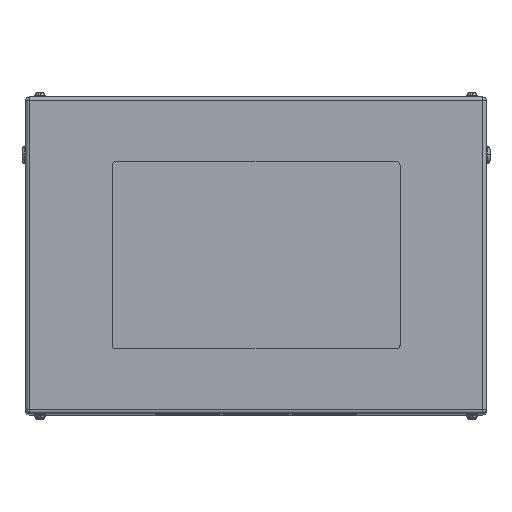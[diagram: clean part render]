
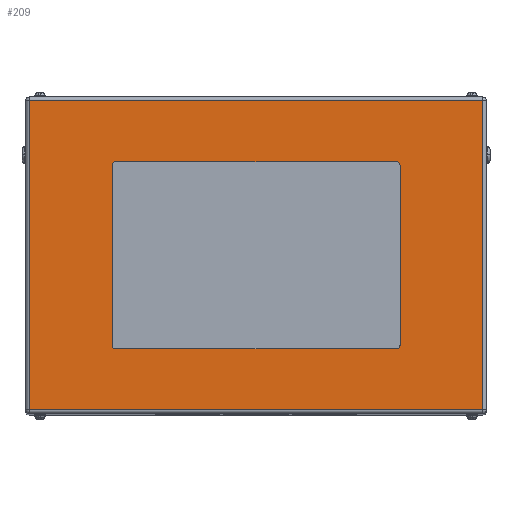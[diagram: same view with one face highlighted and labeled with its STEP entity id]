
A CAD part, top view. The second image highlights one B-rep face of the part: STEP entity #209.
In plain terms, the highlighted planar face has unit normal (0, 0, 1).
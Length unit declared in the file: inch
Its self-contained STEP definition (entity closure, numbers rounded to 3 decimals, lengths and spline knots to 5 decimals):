
#209 = ADVANCED_FACE ( 'NONE', ( #15236, #17262 ), #8025, .F. ) ;
#757 = VERTEX_POINT ( 'NONE', #3330 ) ;
#929 = VERTEX_POINT ( 'NONE', #8004 ) ;
#933 = EDGE_LOOP ( 'NONE', ( #4051, #17474, #10900, #5297 ) ) ;
#1141 = CARTESIAN_POINT ( 'NONE',  ( -9.75, 6.5, 25.5 ) ) ;
#1165 = CARTESIAN_POINT ( 'NONE',  ( -10., 6.25, 25.5 ) ) ;
#1650 = CARTESIAN_POINT ( 'NONE',  ( -9.75, 6.25, 25.5 ) ) ;
#1843 = DIRECTION ( 'NONE',  ( 0., 0., 1. ) ) ;
#1990 = CARTESIAN_POINT ( 'NONE',  ( 10., -6.25, 25.5 ) ) ;
#2100 = VECTOR ( 'NONE', #7121, 39.37008 ) ;
#2222 = CIRCLE ( 'NONE', #9651, 0.25 ) ;
#2949 = CARTESIAN_POINT ( 'NONE',  ( 9.75, 6.25, 25.5 ) ) ;
#2966 = VERTEX_POINT ( 'NONE', #17646 ) ;
#3023 = CARTESIAN_POINT ( 'NONE',  ( 15.734, 10.734, 25.5 ) ) ;
#3059 = EDGE_CURVE ( 'NONE', #4018, #2966, #16823, .T. ) ;
#3330 = CARTESIAN_POINT ( 'NONE',  ( -9.75, -6.5, 25.5 ) ) ;
#3699 = ORIENTED_EDGE ( 'NONE', *, *, #13956, .F. ) ;
#3740 = EDGE_LOOP ( 'NONE', ( #3859, #12587, #3768, #13726, #5467, #11175, #17656, #3699 ) ) ;
#3765 = CARTESIAN_POINT ( 'NONE',  ( 9.75, -6.25, 25.5 ) ) ;
#3768 = ORIENTED_EDGE ( 'NONE', *, *, #16489, .F. ) ;
#3859 = ORIENTED_EDGE ( 'NONE', *, *, #8960, .F. ) ;
#4018 = VERTEX_POINT ( 'NONE', #10508 ) ;
#4051 = ORIENTED_EDGE ( 'NONE', *, *, #3059, .T. ) ;
#4306 = VERTEX_POINT ( 'NONE', #1141 ) ;
#4371 = AXIS2_PLACEMENT_3D ( 'NONE', #14760, #8935, #6289 ) ;
#4380 = DIRECTION ( 'NONE',  ( 0., 0., 1. ) ) ;
#4489 = DIRECTION ( 'NONE',  ( 1., 0., 0. ) ) ;
#4552 = DIRECTION ( 'NONE',  ( -1., 0., 0. ) ) ;
#4629 = CIRCLE ( 'NONE', #13548, 0.25 ) ;
#4644 = DIRECTION ( 'NONE',  ( 1., 0., 0. ) ) ;
#4769 = LINE ( 'NONE', #8024, #15805 ) ;
#5134 = VERTEX_POINT ( 'NONE', #1990 ) ;
#5194 = CARTESIAN_POINT ( 'NONE',  ( 10., 6.25, 25.5 ) ) ;
#5297 = ORIENTED_EDGE ( 'NONE', *, *, #13343, .T. ) ;
#5467 = ORIENTED_EDGE ( 'NONE', *, *, #12211, .F. ) ;
#5522 = DIRECTION ( 'NONE',  ( 1., 0., 0. ) ) ;
#5549 = EDGE_CURVE ( 'NONE', #16502, #15808, #15280, .T. ) ;
#5777 = AXIS2_PLACEMENT_3D ( 'NONE', #10890, #13554, #18132 ) ;
#5815 = CIRCLE ( 'NONE', #12678, 0.25 ) ;
#5835 = DIRECTION ( 'NONE',  ( 0., 1., 0. ) ) ;
#6220 = VECTOR ( 'NONE', #4552, 39.37008 ) ;
#6289 = DIRECTION ( 'NONE',  ( 1., 0., 0. ) ) ;
#6561 = LINE ( 'NONE', #7248, #2100 ) ;
#6671 = DIRECTION ( 'NONE',  ( 1., 0., 0. ) ) ;
#6707 = CARTESIAN_POINT ( 'NONE',  ( -9.75, -6.5, 25.5 ) ) ;
#7121 = DIRECTION ( 'NONE',  ( 0., -1., 0. ) ) ;
#7248 = CARTESIAN_POINT ( 'NONE',  ( -10., 6.25, 25.5 ) ) ;
#8003 = DIRECTION ( 'NONE',  ( 0., 0., 1. ) ) ;
#8004 = CARTESIAN_POINT ( 'NONE',  ( -10., -6.25, 25.5 ) ) ;
#8024 = CARTESIAN_POINT ( 'NONE',  ( 16., 10.734, 25.5 ) ) ;
#8025 = PLANE ( 'NONE',  #5777 ) ;
#8935 = DIRECTION ( 'NONE',  ( 0., 0., 1. ) ) ;
#8960 = EDGE_CURVE ( 'NONE', #757, #14041, #15339, .T. ) ;
#9572 = DIRECTION ( 'NONE',  ( -1., 0., 0. ) ) ;
#9651 = AXIS2_PLACEMENT_3D ( 'NONE', #3765, #8003, #6671 ) ;
#10361 = CARTESIAN_POINT ( 'NONE',  ( 15.734, -10.734, 25.5 ) ) ;
#10508 = CARTESIAN_POINT ( 'NONE',  ( -15.734, 10.734, 25.5 ) ) ;
#10636 = DIRECTION ( 'NONE',  ( 0., -1., 0. ) ) ;
#10890 = CARTESIAN_POINT ( 'NONE',  ( 16., 11., 25.5 ) ) ;
#10900 = ORIENTED_EDGE ( 'NONE', *, *, #5549, .T. ) ;
#11027 = LINE ( 'NONE', #10361, #16890 ) ;
#11175 = ORIENTED_EDGE ( 'NONE', *, *, #18061, .F. ) ;
#11430 = CARTESIAN_POINT ( 'NONE',  ( 15.734, -10.734, 25.5 ) ) ;
#11431 = VERTEX_POINT ( 'NONE', #1165 ) ;
#11503 = VECTOR ( 'NONE', #5522, 39.37008 ) ;
#12081 = VECTOR ( 'NONE', #10636, 39.37008 ) ;
#12211 = EDGE_CURVE ( 'NONE', #15060, #4306, #16329, .T. ) ;
#12518 = VERTEX_POINT ( 'NONE', #5194 ) ;
#12541 = EDGE_CURVE ( 'NONE', #5134, #12518, #13539, .T. ) ;
#12578 = VECTOR ( 'NONE', #5835, 39.37008 ) ;
#12587 = ORIENTED_EDGE ( 'NONE', *, *, #18137, .F. ) ;
#12678 = AXIS2_PLACEMENT_3D ( 'NONE', #1650, #1843, #4489 ) ;
#13343 = EDGE_CURVE ( 'NONE', #15808, #4018, #4769, .T. ) ;
#13416 = CARTESIAN_POINT ( 'NONE',  ( -15.734, 11., 25.5 ) ) ;
#13539 = LINE ( 'NONE', #15487, #17128 ) ;
#13548 = AXIS2_PLACEMENT_3D ( 'NONE', #2949, #4380, #17353 ) ;
#13554 = DIRECTION ( 'NONE',  ( 0., 0., -1. ) ) ;
#13726 = ORIENTED_EDGE ( 'NONE', *, *, #17428, .F. ) ;
#13956 = EDGE_CURVE ( 'NONE', #14041, #5134, #2222, .T. ) ;
#14041 = VERTEX_POINT ( 'NONE', #14513 ) ;
#14440 = CARTESIAN_POINT ( 'NONE',  ( 15.734, 11., 25.5 ) ) ;
#14491 = CARTESIAN_POINT ( 'NONE',  ( -9.75, 6.5, 25.5 ) ) ;
#14513 = CARTESIAN_POINT ( 'NONE',  ( 9.75, -6.5, 25.5 ) ) ;
#14760 = CARTESIAN_POINT ( 'NONE',  ( -9.75, -6.25, 25.5 ) ) ;
#15060 = VERTEX_POINT ( 'NONE', #18334 ) ;
#15236 = FACE_BOUND ( 'NONE', #3740, .T. ) ;
#15280 = LINE ( 'NONE', #14440, #12578 ) ;
#15339 = LINE ( 'NONE', #6707, #11503 ) ;
#15419 = DIRECTION ( 'NONE',  ( 0., 1., 0. ) ) ;
#15487 = CARTESIAN_POINT ( 'NONE',  ( 10., 6.25, 25.5 ) ) ;
#15805 = VECTOR ( 'NONE', #9572, 39.37008 ) ;
#15808 = VERTEX_POINT ( 'NONE', #3023 ) ;
#16329 = LINE ( 'NONE', #14491, #6220 ) ;
#16489 = EDGE_CURVE ( 'NONE', #11431, #929, #6561, .T. ) ;
#16502 = VERTEX_POINT ( 'NONE', #11430 ) ;
#16704 = EDGE_CURVE ( 'NONE', #2966, #16502, #11027, .T. ) ;
#16823 = LINE ( 'NONE', #13416, #12081 ) ;
#16890 = VECTOR ( 'NONE', #4644, 39.37008 ) ;
#17128 = VECTOR ( 'NONE', #15419, 39.37008 ) ;
#17228 = CIRCLE ( 'NONE', #4371, 0.25 ) ;
#17262 = FACE_OUTER_BOUND ( 'NONE', #933, .T. ) ;
#17353 = DIRECTION ( 'NONE',  ( -1., 0., 0. ) ) ;
#17428 = EDGE_CURVE ( 'NONE', #4306, #11431, #5815, .T. ) ;
#17474 = ORIENTED_EDGE ( 'NONE', *, *, #16704, .T. ) ;
#17646 = CARTESIAN_POINT ( 'NONE',  ( -15.734, -10.734, 25.5 ) ) ;
#17656 = ORIENTED_EDGE ( 'NONE', *, *, #12541, .F. ) ;
#18061 = EDGE_CURVE ( 'NONE', #12518, #15060, #4629, .T. ) ;
#18132 = DIRECTION ( 'NONE',  ( -1., 0., 0. ) ) ;
#18137 = EDGE_CURVE ( 'NONE', #929, #757, #17228, .T. ) ;
#18334 = CARTESIAN_POINT ( 'NONE',  ( 9.75, 6.5, 25.5 ) ) ;
